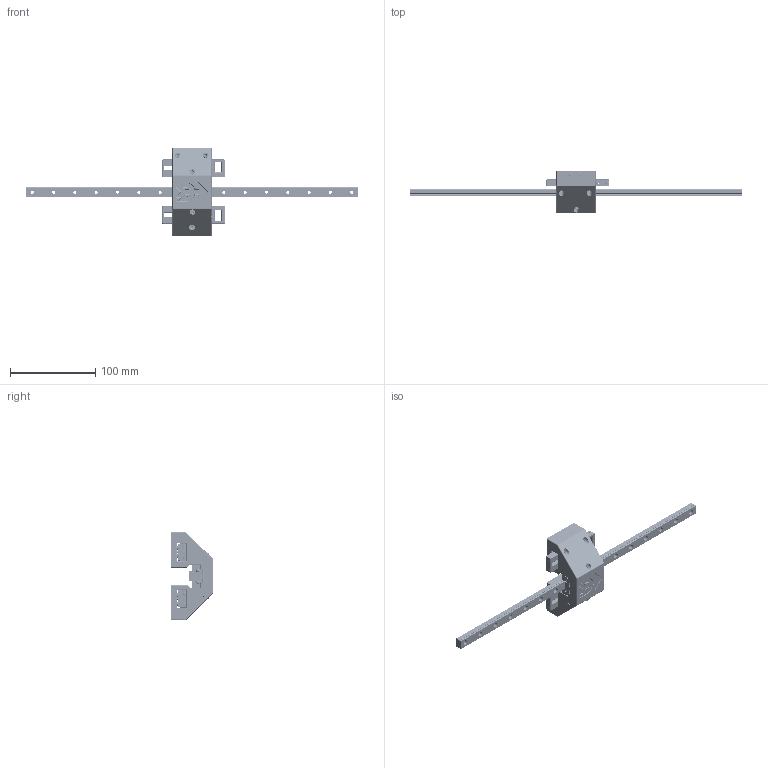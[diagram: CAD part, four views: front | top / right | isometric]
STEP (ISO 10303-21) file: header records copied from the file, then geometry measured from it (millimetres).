
FILE_DESCRIPTION(/* description */ (''),/* implementation_level */ '2;1');
FILE_NAME(/* name */ 'Carriage For V2ool v10.step',/* time_stamp */ '2024-06-21T14:30:47+07:00',/* author */ (''),/* organization */ (''),/* preprocessor_version */ 'ST-DEVELOPER v20',/* originating_system */ 'Autodesk Translation Framework v13.14.0.145',/* authorisation */ '');
FILE_SCHEMA (('AUTOMOTIVE_DESIGN { 1 0 10303 214 3 1 1 }'));
Products named in the file (67): Carriage For V2ool; ToolLock; Hardware; m3 x 15mm shcs (2); m3 x 20mm dowel pin; spring OD6 ID5 (7); m3 x 30mm dowel pin (2); spring OD6 ID5 (3); m3 x 16mm dowel pin (3); m3 x 30mm dowel pin (3); m3 x 15mm shcs (3); m3 x 20mm dowel pin (3); m3 x 30mm dowel pin (5); m3 x 20mm dowel pin (4); m3 x 20mm dowel pin (5); spring OD6 ID5 (1); spring OD6 ID5 (5); m3 x 16mm dowel pin (2); m3 x 30mm dowel pin (7); spring OD6 ID5 (2); m3 x 16mm dowel pin (1); m3 x 16mm dowel pin (5); m3 x 6mm shcs (5); m3 x 30mm dowel pin; m3 x 15mm shcs; m3 x 15mm shcs (1); m3 x 30mm dowel pin (6); m3 x 16mm dowel pin; m3 x 16mm dowel pin (4); spring OD6 ID5 (4); m3 x 20mm dowel pin (1); m3 x 20mm dowel pin (2); spring OD6 ID5 (6); m3 x 30mm dowel pin (1); m3 x 30mm dowel pin (4); spring OD6 ID5; m3 x 6mm shcs (3); m3 x 6mm shcs (2); m3 x 20mm shcs (2); m3 x 6mm shcs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
Assembly tree (66 placements, depth 4):
  Carriage For V2ool
    ToolLock
      Hardware
        m3 x 15mm shcs (2)
        m3 x 20mm dowel pin
        spring OD6 ID5 (7)
        m3 x 30mm dowel pin (2)
        spring OD6 ID5 (3)
        m3 x 16mm dowel pin (3)
        m3 x 30mm dowel pin (3)
        m3 x 15mm shcs (3)
        m3 x 20mm dowel pin (3)
        m3 x 30mm dowel pin (5)
        m3 x 20mm dowel pin (4)
        m3 x 20mm dowel pin (5)
        spring OD6 ID5 (1)
        spring OD6 ID5 (5)
        m3 x 16mm dowel pin (2)
        m3 x 30mm dowel pin (7)
        spring OD6 ID5 (2)
        m3 x 16mm dowel pin (1)
        m3 x 16mm dowel pin (5)
        m3 x 6mm shcs (5)
        m3 x 30mm dowel pin
        m3 x 15mm shcs
        m3 x 15mm shcs (1)
        m3 x 30mm dowel pin (6)
        m3 x 16mm dowel pin
        m3 x 16mm dowel pin (4)
        spring OD6 ID5 (4)
        m3 x 20mm dowel pin (1)
        m3 x 20mm dowel pin (2)
        spring OD6 ID5 (6)
        m3 x 30mm dowel pin (1)
        m3 x 30mm dowel pin (4)
        spring OD6 ID5
        m3 x 6mm shcs (3)
        m3 x 6mm shcs (2)
        m3 x 20mm shcs (2)
        m3 x 6mm shcs
        m3 x 6mm shcs (1)
        m3 hex nut
        m3 hex nut (4)
        m3 brass insert (1)
        m3 hex nut (3)
        m3 x 20mm shcs
        m3 x 20mm shcs (1)
        m3 x 6mm shcs (4)
        m3 brass insert
        m3 square nut (2)
        m3 square nut (3)
        m3 square nut
        m3 square nut (1)
        4 x 4mm magnet
        6 x 3mm magnet
      Printed Parts
        carriage-mgn12-integrated-belt-groove
        lock-body-slider x 2
        lock-body-slider x 2 (1)
        spring-spacer-bottom
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Bounding box: 390 x 50.34 x 104.23 mm (x, y, z)
Volume: 162310.8 mm3; surface area: 95272.4 mm2
Topology: 70 solids, 70 shells, 2669 faces, 6944 edges, 4478 vertices
Faces by surface type: plane 1054, cylinder 1015, bspline 258, cone 204, sphere 75, torus 63
Full cylindrical faces by diameter (mm): 2.376 x20, 2.5 x19, 2.529 x12, 3 x226, 3.086 x12, 3.2 x18, 3.3 x6, 3.4 x20, 3.5 x16, 3.505 x2, 3.564 x2, 4 x1, 4.2 x5, 4.5 x11, 4.751 x2, 5.58 x13, 5.68 x13, 6 x17, 6.2 x1, 6.5 x19, 8 x3
Entity records: 255450 total; most frequent: CARTESIAN_POINT 190300, ORIENTED_EDGE 13880, DIRECTION 12302, EDGE_CURVE 6940, VERTEX_POINT 4478, AXIS2_PLACEMENT_3D 4456, LINE 3390, VECTOR 3390
